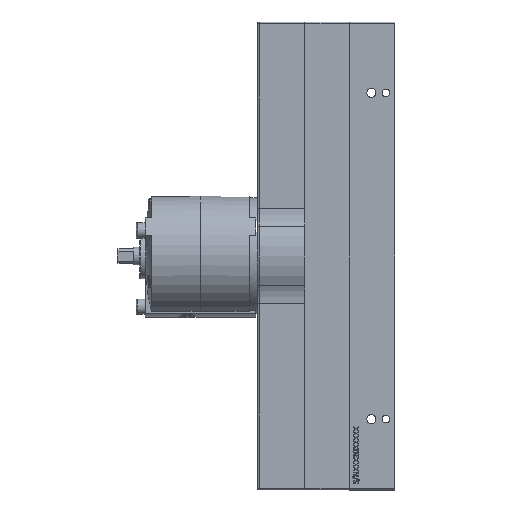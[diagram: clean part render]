
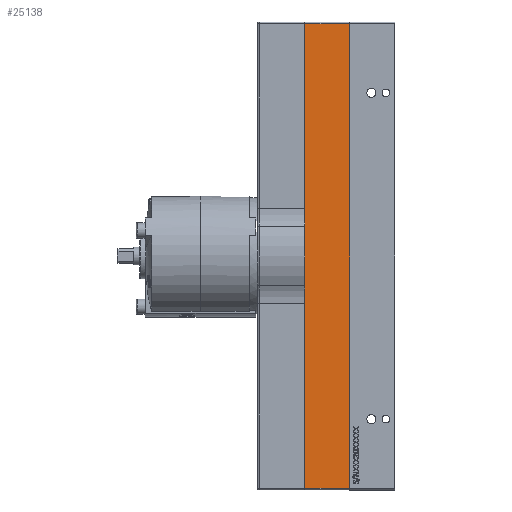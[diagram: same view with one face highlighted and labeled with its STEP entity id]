
A CAD part, left-side view. The second image highlights one B-rep face of the part: STEP entity #25138.
In plain terms, the highlighted planar face has unit normal (-1, 0, 0).
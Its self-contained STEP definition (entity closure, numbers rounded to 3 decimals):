
#1372 = DIRECTION ( 'NONE',  ( 0., 0., -1. ) ) ;
#8810 = PLANE ( 'NONE',  #140909 ) ;
#25138 = ADVANCED_FACE ( 'NONE', ( #91619 ), #8810, .F. ) ;
#27997 = VECTOR ( 'NONE', #64270, 1000. ) ;
#34276 = CARTESIAN_POINT ( 'NONE',  ( -56., -51.86, -152.131 ) ) ;
#40251 = CARTESIAN_POINT ( 'NONE',  ( -56., -25.16, -152.131 ) ) ;
#41410 = CARTESIAN_POINT ( 'NONE',  ( -56., -0.36, -152.131 ) ) ;
#42795 = VERTEX_POINT ( 'NONE', #91597 ) ;
#42967 = ORIENTED_EDGE ( 'NONE', *, *, #68526, .T. ) ;
#44051 = DIRECTION ( 'NONE',  ( 0., 1., 0. ) ) ;
#44596 = CARTESIAN_POINT ( 'NONE',  ( -56., -51.86, 104.069 ) ) ;
#45604 = EDGE_CURVE ( 'NONE', #42795, #159128, #60069, .T. ) ;
#53812 = LINE ( 'NONE', #44596, #82904 ) ;
#54897 = ORIENTED_EDGE ( 'NONE', *, *, #45604, .T. ) ;
#60069 = LINE ( 'NONE', #86852, #96883 ) ;
#60619 = DIRECTION ( 'NONE',  ( 1., 0., 0. ) ) ;
#64270 = DIRECTION ( 'NONE',  ( 0., 0., -1. ) ) ;
#68526 = EDGE_CURVE ( 'NONE', #138104, #42795, #53812, .T. ) ;
#72541 = VERTEX_POINT ( 'NONE', #40251 ) ;
#82904 = VECTOR ( 'NONE', #44051, 1000. ) ;
#83566 = DIRECTION ( 'NONE',  ( 0., -1., 0. ) ) ;
#86852 = CARTESIAN_POINT ( 'NONE',  ( -56., -0.36, 171.989 ) ) ;
#91597 = CARTESIAN_POINT ( 'NONE',  ( -56., -0.36, 104.069 ) ) ;
#91619 = FACE_OUTER_BOUND ( 'NONE', #126316, .T. ) ;
#96883 = VECTOR ( 'NONE', #1372, 1000. ) ;
#98004 = EDGE_CURVE ( 'NONE', #138104, #72541, #126770, .T. ) ;
#101066 = CARTESIAN_POINT ( 'NONE',  ( -56., -25.16, 104.069 ) ) ;
#107757 = CARTESIAN_POINT ( 'NONE',  ( -56., -51.86, 171.989 ) ) ;
#121622 = LINE ( 'NONE', #34276, #123630 ) ;
#123630 = VECTOR ( 'NONE', #83566, 1000. ) ;
#124594 = ORIENTED_EDGE ( 'NONE', *, *, #145635, .T. ) ;
#126316 = EDGE_LOOP ( 'NONE', ( #124594, #146805, #42967, #54897 ) ) ;
#126770 = LINE ( 'NONE', #101066, #27997 ) ;
#128443 = CARTESIAN_POINT ( 'NONE',  ( -56., -25.16, 104.069 ) ) ;
#138104 = VERTEX_POINT ( 'NONE', #128443 ) ;
#140909 = AXIS2_PLACEMENT_3D ( 'NONE', #107757, #60619, #159262 ) ;
#145635 = EDGE_CURVE ( 'NONE', #159128, #72541, #121622, .T. ) ;
#146805 = ORIENTED_EDGE ( 'NONE', *, *, #98004, .F. ) ;
#159128 = VERTEX_POINT ( 'NONE', #41410 ) ;
#159262 = DIRECTION ( 'NONE',  ( 0., 0., -1. ) ) ;
